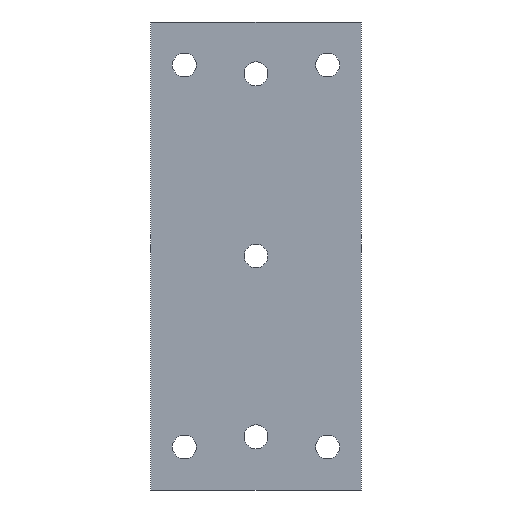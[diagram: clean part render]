
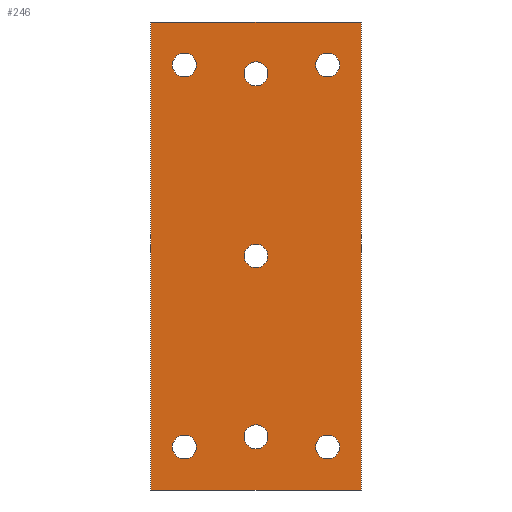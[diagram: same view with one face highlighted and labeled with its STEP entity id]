
A CAD part, front view. The second image highlights one B-rep face of the part: STEP entity #246.
In plain terms, the highlighted planar face has unit normal (0, -1, 0).
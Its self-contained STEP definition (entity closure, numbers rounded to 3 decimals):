
#15=LINE('',#383,#27);
#19=LINE('',#392,#31);
#23=LINE('',#399,#35);
#25=LINE('',#402,#37);
#27=VECTOR('',#322,49.);
#31=VECTOR('',#328,49.);
#35=VECTOR('',#334,22.);
#37=VECTOR('',#338,22.);
#44=PLANE('',#275);
#59=FACE_BOUND('',#106,.T.);
#60=FACE_BOUND('',#107,.T.);
#61=FACE_BOUND('',#108,.T.);
#62=FACE_BOUND('',#109,.T.);
#63=FACE_BOUND('',#110,.T.);
#64=FACE_BOUND('',#111,.T.);
#65=FACE_BOUND('',#112,.T.);
#78=FACE_OUTER_BOUND('',#105,.T.);
#105=EDGE_LOOP('',(#216,#217,#218,#219));
#106=EDGE_LOOP('',(#220));
#107=EDGE_LOOP('',(#221));
#108=EDGE_LOOP('',(#222));
#109=EDGE_LOOP('',(#223));
#110=EDGE_LOOP('',(#224));
#111=EDGE_LOOP('',(#225));
#112=EDGE_LOOP('',(#226));
#113=CIRCLE('',#250,1.23);
#115=CIRCLE('',#253,1.25);
#117=CIRCLE('',#256,1.25);
#119=CIRCLE('',#259,1.25);
#121=CIRCLE('',#262,1.25);
#123=CIRCLE('',#265,1.25);
#125=CIRCLE('',#268,1.25);
#127=VERTEX_POINT('',#346);
#129=VERTEX_POINT('',#351);
#131=VERTEX_POINT('',#356);
#133=VERTEX_POINT('',#361);
#135=VERTEX_POINT('',#366);
#137=VERTEX_POINT('',#371);
#139=VERTEX_POINT('',#376);
#141=VERTEX_POINT('',#381);
#142=VERTEX_POINT('',#382);
#145=VERTEX_POINT('',#390);
#146=VERTEX_POINT('',#391);
#149=EDGE_CURVE('',#127,#127,#113,.T.);
#151=EDGE_CURVE('',#129,#129,#115,.T.);
#153=EDGE_CURVE('',#131,#131,#117,.T.);
#155=EDGE_CURVE('',#133,#133,#119,.T.);
#157=EDGE_CURVE('',#135,#135,#121,.T.);
#159=EDGE_CURVE('',#137,#137,#123,.T.);
#161=EDGE_CURVE('',#139,#139,#125,.T.);
#163=EDGE_CURVE('',#141,#142,#15,.T.);
#167=EDGE_CURVE('',#145,#146,#19,.T.);
#171=EDGE_CURVE('',#142,#145,#23,.T.);
#173=EDGE_CURVE('',#146,#141,#25,.T.);
#216=ORIENTED_EDGE('',*,*,#173,.F.);
#217=ORIENTED_EDGE('',*,*,#167,.F.);
#218=ORIENTED_EDGE('',*,*,#171,.F.);
#219=ORIENTED_EDGE('',*,*,#163,.F.);
#220=ORIENTED_EDGE('',*,*,#149,.T.);
#221=ORIENTED_EDGE('',*,*,#151,.T.);
#222=ORIENTED_EDGE('',*,*,#153,.T.);
#223=ORIENTED_EDGE('',*,*,#155,.T.);
#224=ORIENTED_EDGE('',*,*,#157,.T.);
#225=ORIENTED_EDGE('',*,*,#159,.T.);
#226=ORIENTED_EDGE('',*,*,#161,.T.);
#246=ADVANCED_FACE('',(#78,#59,#60,#61,#62,#63,#64,#65),#44,.T.);
#250=AXIS2_PLACEMENT_3D('',#347,#280,#281);
#253=AXIS2_PLACEMENT_3D('',#352,#286,#287);
#256=AXIS2_PLACEMENT_3D('',#357,#292,#293);
#259=AXIS2_PLACEMENT_3D('',#362,#298,#299);
#262=AXIS2_PLACEMENT_3D('',#367,#304,#305);
#265=AXIS2_PLACEMENT_3D('',#372,#310,#311);
#268=AXIS2_PLACEMENT_3D('',#377,#316,#317);
#275=AXIS2_PLACEMENT_3D('',#405,#342,#343);
#280=DIRECTION('center_axis',(0.,1.,0.));
#281=DIRECTION('ref_axis',(1.,0.,0.));
#286=DIRECTION('center_axis',(0.,1.,0.));
#287=DIRECTION('ref_axis',(1.,0.,0.));
#292=DIRECTION('center_axis',(0.,1.,0.));
#293=DIRECTION('ref_axis',(1.,0.,0.));
#298=DIRECTION('center_axis',(0.,1.,0.));
#299=DIRECTION('ref_axis',(1.,0.,0.));
#304=DIRECTION('center_axis',(0.,1.,0.));
#305=DIRECTION('ref_axis',(1.,0.,0.));
#310=DIRECTION('center_axis',(0.,1.,0.));
#311=DIRECTION('ref_axis',(1.,0.,0.));
#316=DIRECTION('center_axis',(0.,1.,0.));
#317=DIRECTION('ref_axis',(1.,0.,0.));
#322=DIRECTION('',(0.,0.,1.));
#328=DIRECTION('',(0.,0.,-1.));
#334=DIRECTION('',(1.,0.,0.));
#338=DIRECTION('',(-1.,0.,0.));
#342=DIRECTION('center_axis',(0.,-1.,0.));
#343=DIRECTION('ref_axis',(0.,0.,-1.));
#346=CARTESIAN_POINT('',(-1.23,0.,0.));
#347=CARTESIAN_POINT('Origin',(0.,0.,0.));
#351=CARTESIAN_POINT('',(-8.75,0.,-20.));
#352=CARTESIAN_POINT('Origin',(-7.5,0.,-20.));
#356=CARTESIAN_POINT('',(-8.75,0.,20.));
#357=CARTESIAN_POINT('Origin',(-7.5,0.,20.));
#361=CARTESIAN_POINT('',(6.25,0.,20.));
#362=CARTESIAN_POINT('Origin',(7.5,0.,20.));
#366=CARTESIAN_POINT('',(6.25,0.,-20.));
#367=CARTESIAN_POINT('Origin',(7.5,0.,-20.));
#371=CARTESIAN_POINT('',(-1.25,0.,19.072));
#372=CARTESIAN_POINT('Origin',(0.,0.,19.072));
#376=CARTESIAN_POINT('',(-1.25,0.,-18.928));
#377=CARTESIAN_POINT('Origin',(0.,0.,-18.928));
#381=CARTESIAN_POINT('',(-11.,0.,-24.5));
#382=CARTESIAN_POINT('',(-11.,0.,24.5));
#383=CARTESIAN_POINT('',(-11.,0.,-24.5));
#390=CARTESIAN_POINT('',(11.,0.,24.5));
#391=CARTESIAN_POINT('',(11.,0.,-24.5));
#392=CARTESIAN_POINT('',(11.,0.,24.5));
#399=CARTESIAN_POINT('',(-11.,0.,24.5));
#402=CARTESIAN_POINT('',(11.,0.,-24.5));
#405=CARTESIAN_POINT('Origin',(5.5,0.,0.));
